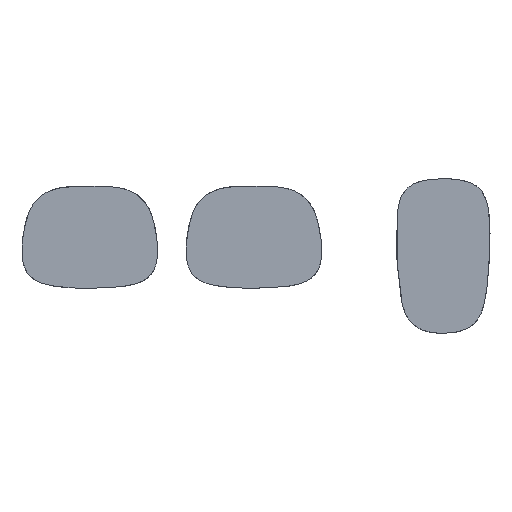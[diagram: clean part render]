
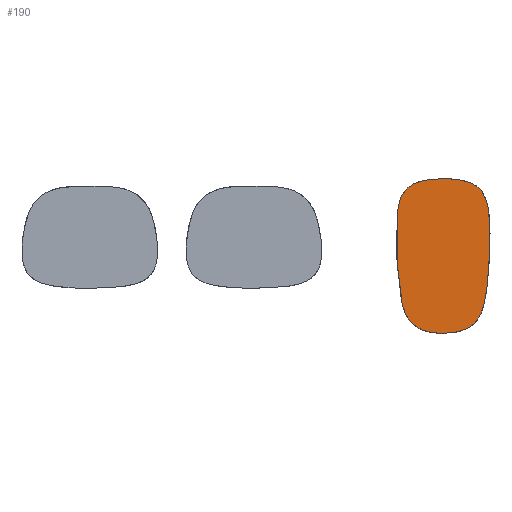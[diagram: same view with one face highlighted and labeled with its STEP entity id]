
A CAD part, top view. The second image highlights one B-rep face of the part: STEP entity #190.
In plain terms, the highlighted planar face has unit normal (0, 0, 1).
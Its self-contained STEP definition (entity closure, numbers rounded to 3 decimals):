
#190=ADVANCED_FACE('',(#424),#2678,.T.);
#424=FACE_OUTER_BOUND('',#658,.T.);
#658=EDGE_LOOP('',(#898,#899));
#898=ORIENTED_EDGE('',*,*,#1642,.T.);
#899=ORIENTED_EDGE('',*,*,#1657,.T.);
#1642=EDGE_CURVE('',#2386,#2395,#2222,.T.);
#1657=EDGE_CURVE('',#2395,#2386,#2233,.T.);
#2222=B_SPLINE_CURVE_WITH_KNOTS('',5,(#4616,#4617,#4618,#4619,#4620,#4621,
#4622,#4623,#4624,#4625,#4626,#4627,#4628),.UNSPECIFIED.,.F.,.F.,(6,1,1,
1,1,1,1,1,6),(0.,27.803,55.606,83.409,111.211,
139.014,222.423,333.634,389.24),
 .UNSPECIFIED.);
#2233=B_SPLINE_CURVE_WITH_KNOTS('',5,(#5001,#5002,#5003,#5004,#5005,#5006,
#5007,#5008,#5009,#5010,#5011,#5012,#5013),.UNSPECIFIED.,.F.,.F.,(6,1,1,
1,1,1,1,1,6),(389.24,444.846,556.057,639.466,
667.269,695.072,722.874,750.677,778.48),
 .UNSPECIFIED.);
#2386=VERTEX_POINT('',#4602);
#2395=VERTEX_POINT('',#4611);
#2678=PLANE('',#2876);
#2876=AXIS2_PLACEMENT_3D('',#3250,#3063,$);
#3063=DIRECTION('',(0.,0.,1.));
#3250=CARTESIAN_POINT('',(-2630.96,2126.276,0.));
#4602=CARTESIAN_POINT('',(-2465.749,2670.276,0.));
#4611=CARTESIAN_POINT('',(-2465.749,2126.276,0.));
#4616=CARTESIAN_POINT('',(-2465.749,2670.276,0.));
#4617=CARTESIAN_POINT('',(-2478.947,2670.276,0.));
#4618=CARTESIAN_POINT('',(-2527.216,2669.578,0.));
#4619=CARTESIAN_POINT('',(-2600.693,2654.321,0.));
#4620=CARTESIAN_POINT('',(-2634.42,2595.246,0.));
#4621=CARTESIAN_POINT('',(-2631.377,2428.558,0.));
#4622=CARTESIAN_POINT('',(-2624.255,2310.06,0.));
#4623=CARTESIAN_POINT('',(-2613.077,2231.364,0.));
#4624=CARTESIAN_POINT('',(-2601.248,2194.155,0.));
#4625=CARTESIAN_POINT('',(-2586.379,2162.324,0.));
#4626=CARTESIAN_POINT('',(-2544.73,2131.425,0.));
#4627=CARTESIAN_POINT('',(-2485.494,2126.276,0.));
#4628=CARTESIAN_POINT('',(-2465.749,2126.276,0.));
#5001=CARTESIAN_POINT('',(-2465.749,2126.276,0.));
#5002=CARTESIAN_POINT('',(-2446.003,2126.276,0.));
#5003=CARTESIAN_POINT('',(-2386.767,2131.425,0.));
#5004=CARTESIAN_POINT('',(-2345.118,2162.324,0.));
#5005=CARTESIAN_POINT('',(-2330.249,2194.155,0.));
#5006=CARTESIAN_POINT('',(-2318.42,2231.364,0.));
#5007=CARTESIAN_POINT('',(-2307.242,2310.06,0.));
#5008=CARTESIAN_POINT('',(-2300.12,2428.558,0.));
#5009=CARTESIAN_POINT('',(-2297.077,2595.246,0.));
#5010=CARTESIAN_POINT('',(-2330.804,2654.321,0.));
#5011=CARTESIAN_POINT('',(-2404.281,2669.578,0.));
#5012=CARTESIAN_POINT('',(-2452.55,2670.276,0.));
#5013=CARTESIAN_POINT('',(-2465.749,2670.276,0.));
